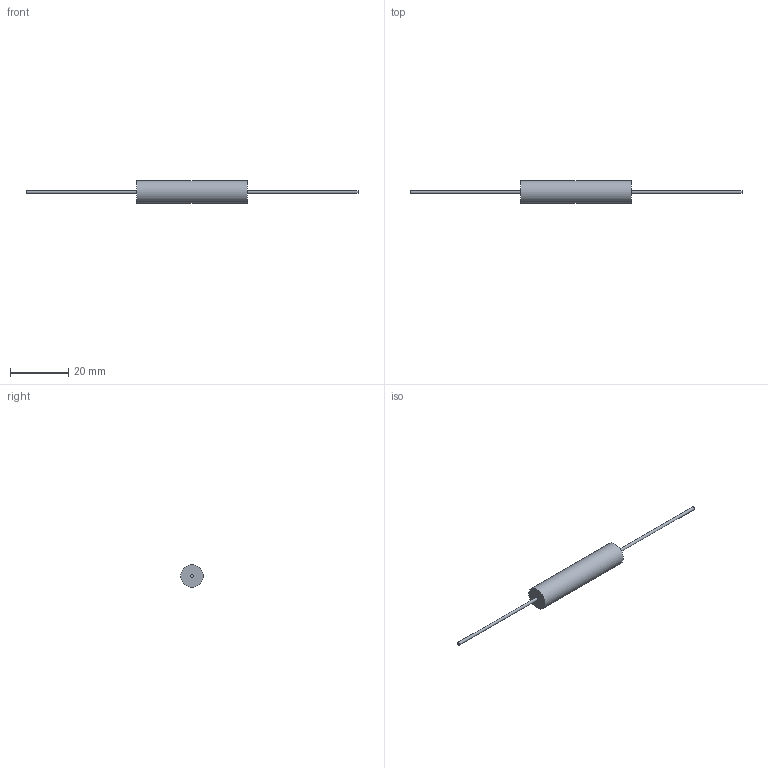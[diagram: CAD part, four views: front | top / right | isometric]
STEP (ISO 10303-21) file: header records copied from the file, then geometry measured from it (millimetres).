
FILE_DESCRIPTION(/* description */ (''),/* implementation_level */ '2;1');
FILE_NAME(/* name */ 'C:\Users\mulla\Documents\SEI Models\Inventor Files\HVAM\3D\HVAM36_stp.stp',/* time_stamp */ '2019-06-12T13:02:20-04:00',/* author */ ('mulla'),/* organization */ (''),/* preprocessor_version */ 'ST-DEVELOPER v16.1',/* originating_system */ 'Autodesk Inventor 2016',/* authorisation */ '');
FILE_SCHEMA (('AUTOMOTIVE_DESIGN { 1 0 10303 214 3 1 1 }'));
Length unit declared in the file: millimetre
Products named in the file (1): HVAM36
Bounding box: 114.3 x 7.87 x 7.87 mm (x, y, z)
Volume: 1915.6 mm3; surface area: 1286.7 mm2
Topology: 3 solids, 3 shells, 9 faces, 9 edges, 6 vertices
Faces by surface type: plane 6, cylinder 3
Full cylindrical faces by diameter (mm): 1.02 x2, 7.87 x1
Entity records: 186 total; most frequent: DIRECTION 32, CARTESIAN_POINT 22, AXIS2_PLACEMENT_3D 16, EDGE_LOOP 12, ORIENTED_EDGE 12, FACE_OUTER_BOUND 9, ADVANCED_FACE 9, PLANE 6
